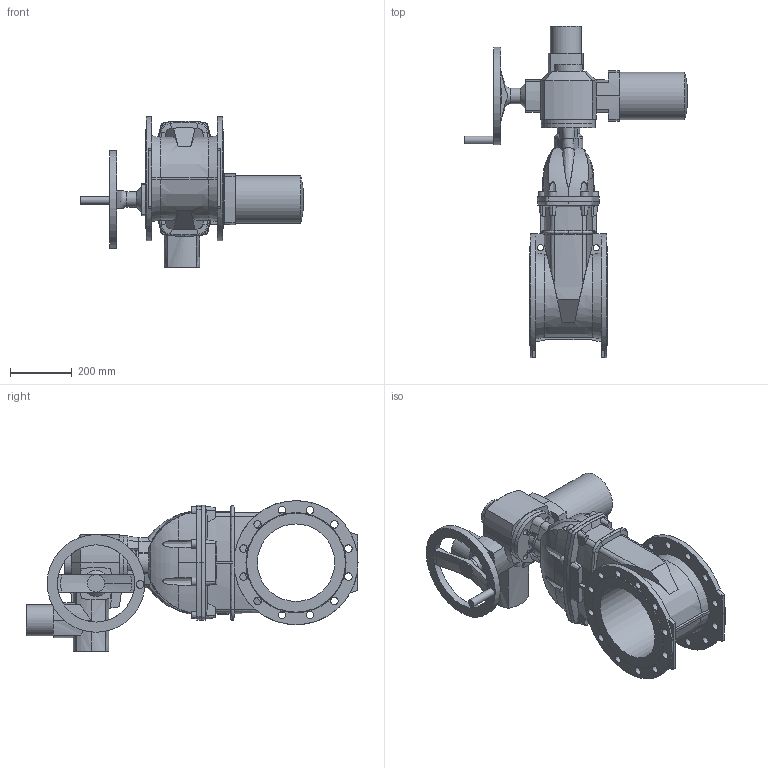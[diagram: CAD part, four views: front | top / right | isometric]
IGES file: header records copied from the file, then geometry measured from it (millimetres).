
Start section: SolidWorks IGES file using analytic representation for surfaces
Global section: file name: D:\Arthur\For Will\Finished\O_15_42_DN250 with AUMA\O_15_42_DN250_00_iges with AUMA.IGS; native system: SolidWorks 2012; preprocessor: SolidWorks 2012; author: aran; date: 150611.153846; units: millimetre
Bounding box: 721 x 1071 x 486 mm (x, y, z)
Surface area: 1774756.9 mm2 (no closed solid volume)
Topology: 0 solids, 0 shells, 464 faces, 2604 edges, 2516 vertices
Faces by surface type: revolution 244, bspline 220
